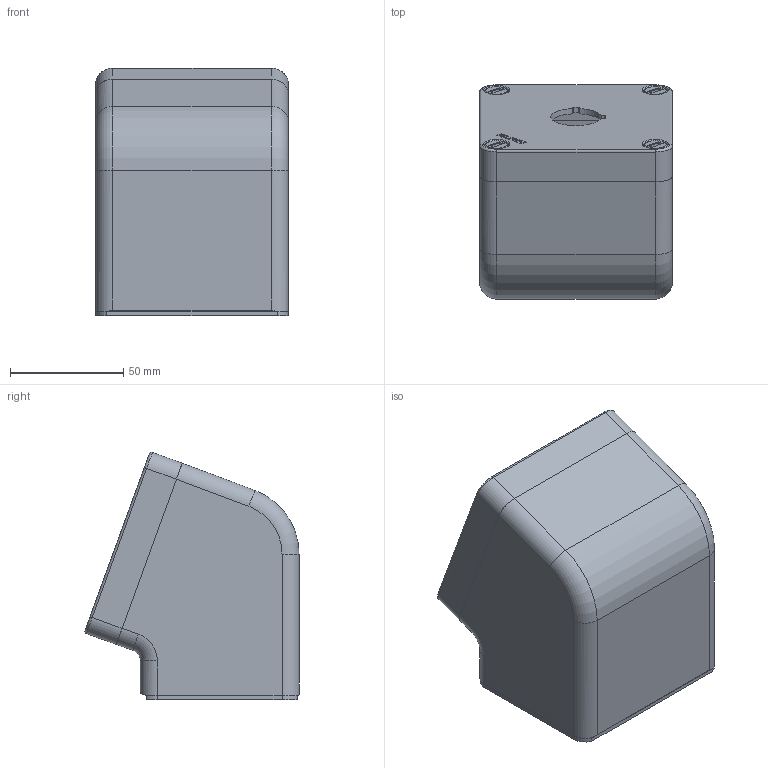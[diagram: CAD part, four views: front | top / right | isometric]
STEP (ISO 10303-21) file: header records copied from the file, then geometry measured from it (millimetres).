
FILE_DESCRIPTION (( 'STEP AP214' ), '1' );
FILE_NAME ('040L0808-8EP1C.STEP', '2018-10-03T09:14:06', ( '' ), ( '' ), 'SwSTEP 2.0', 'SolidWorks 2013', '' );
FILE_SCHEMA (( 'AUTOMOTIVE_DESIGN' ));
Length unit declared in the file: millimetre
Products named in the file (1): 040L0808-8EP1C
Bounding box: 85 x 94.41 x 109.11 mm (x, y, z)
Volume: 205531.2 mm3; surface area: 97195.9 mm2
Topology: 6 solids, 6 shells, 705 faces, 1757 edges, 1111 vertices
Faces by surface type: plane 324, cylinder 279, torus 88, cone 12, bspline 2
Entity records: 28804 total; most frequent: CARTESIAN_POINT 3941, DIRECTION 3723, ORIENTED_EDGE 3512, EDGE_CURVE 1756, AXIS2_PLACEMENT_3D 1335, VERTEX_POINT 1111, LINE 1053, VECTOR 1053
